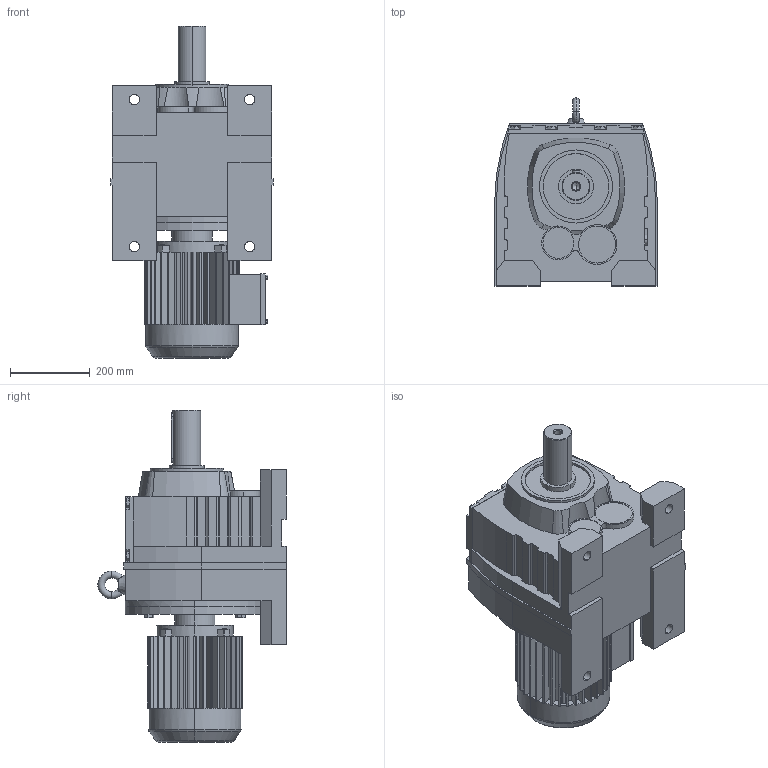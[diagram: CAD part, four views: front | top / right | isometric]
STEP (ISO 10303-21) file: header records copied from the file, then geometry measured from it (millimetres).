
FILE_DESCRIPTION(('Open CASCADE Model'),'2;1');
FILE_NAME('Open CASCADE Shape Model','2021-07-05T14:35:19',('Author'),( 'Open CASCADE'),'Open CASCADE STEP processor 6.3','Open CASCADE 6.3' ,'Unknown');
FILE_SCHEMA(('AUTOMOTIVE_DESIGN_CC2 { 1 2 10303 214 -1 1 5 4 }'));
Length unit declared in the file: millimetre
Products named in the file (3): 1_R107-Y112M; R37‵167_107.step; 萇儂_350_Y112M.step
Assembly tree (2 placements, depth 2):
  1_R107-Y112M
    R37‵167_107.step
    萇儂_350_Y112M.step
Bounding box: 409 x 473.5 x 835 mm (x, y, z)
Volume: 60374145.8 mm3; surface area: 1810911.9 mm2
Topology: 2 solids, 2 shells, 744 faces, 1986 edges, 1283 vertices
Faces by surface type: plane 529, cylinder 185, cone 20, torus 10
Entity records: 51860 total; most frequent: CARTESIAN_POINT 13994, DIRECTION 6603, ORIENTED_EDGE 3968, PCURVE 3968, DEFINITIONAL_REPRESENTATION 3968, LINE 3693, VECTOR 3693, EDGE_CURVE 1984
